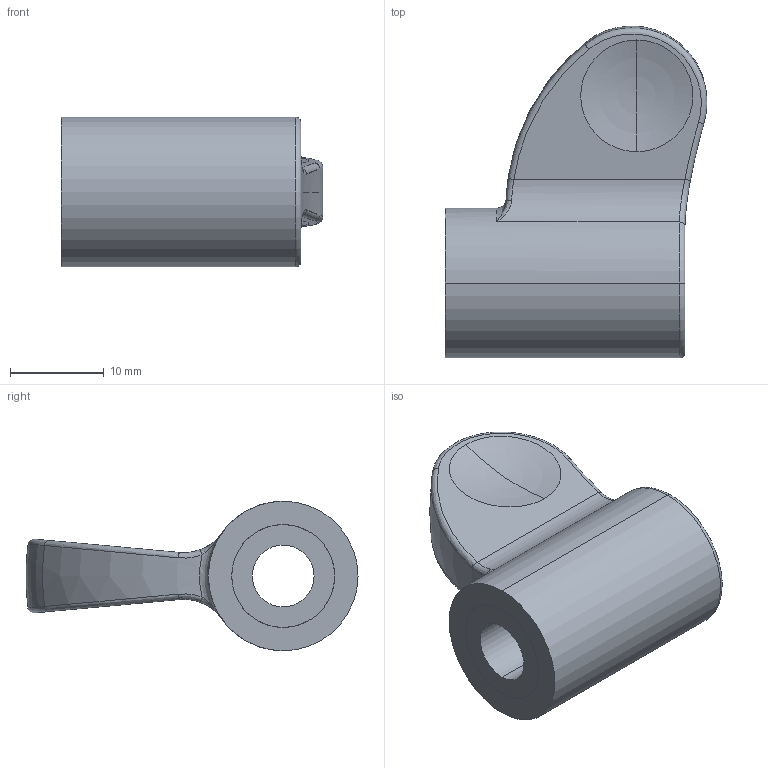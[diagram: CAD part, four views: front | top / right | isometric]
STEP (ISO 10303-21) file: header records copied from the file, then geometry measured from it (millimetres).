
FILE_DESCRIPTION (( 'STEP AP214' ), '1' );
FILE_NAME ('635-27,5-M8-D.step', '2020-06-24T11:09:45', ( '' ), ( '' ), 'SwSTEP 2.0', 'SolidWorks 2019', '' );
FILE_SCHEMA (( 'AUTOMOTIVE_DESIGN' ));
Length unit declared in the file: millimetre
Products named in the file (1): 635-27,5-M8-D
Bounding box: 28 x 35.5 x 16 mm (x, y, z)
Volume: 5721.8 mm3; surface area: 3106.8 mm2
Topology: 1 solids, 1 shells, 48 faces, 115 edges, 68 vertices
Faces by surface type: cylinder 15, torus 14, bspline 10, plane 7, sphere 2
Entity records: 2134 total; most frequent: CARTESIAN_POINT 980, DIRECTION 235, ORIENTED_EDGE 218, EDGE_CURVE 109, AXIS2_PLACEMENT_3D 109, CIRCLE 70, VERTEX_POINT 68, EDGE_LOOP 55
